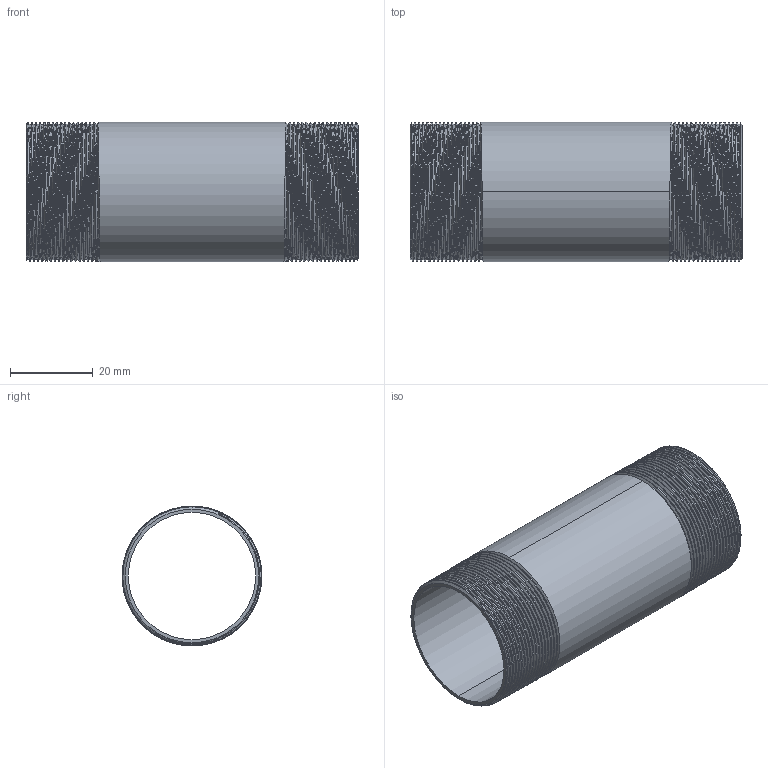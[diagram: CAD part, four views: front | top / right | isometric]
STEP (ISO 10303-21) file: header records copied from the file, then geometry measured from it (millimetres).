
FILE_DESCRIPTION (( 'STEP AP203' ), '1' );
FILE_NAME ('3D_R210_1x80_17185750.STEP', '2024-08-16T11:20:11', ( '' ), ( '' ), 'SwSTEP 2.0', 'SolidWorks 2024', '' );
FILE_SCHEMA (( 'CONFIG_CONTROL_DESIGN' ));
Length unit declared in the file: millimetre
Products named in the file (1): 3D_R210_1x80_17185750
Bounding box: 80 x 33.67 x 33.7 mm (x, y, z)
Volume: 10968 mm3; surface area: 18185.7 mm2
Topology: 1 solids, 1 shells, 88 faces, 250 edges, 164 vertices
Faces by surface type: cone 74, bspline 6, cylinder 4, plane 4
Entity records: 15477 total; most frequent: CARTESIAN_POINT 13431, ORIENTED_EDGE 500, DIRECTION 278, EDGE_CURVE 250, VERTEX_POINT 164, B_SPLINE_CURVE_WITH_KNOTS 144, AXIS2_PLACEMENT_3D 97, EDGE_LOOP 90
